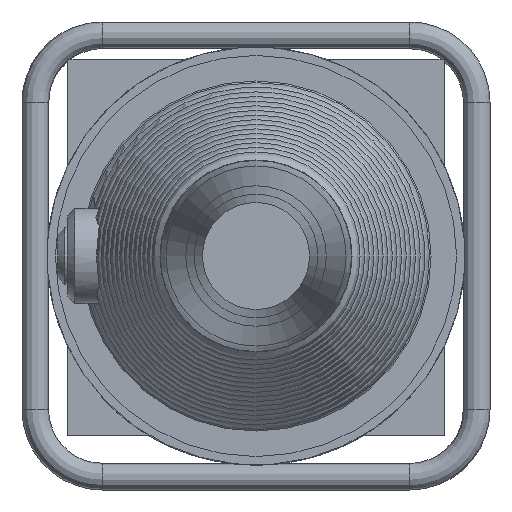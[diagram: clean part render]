
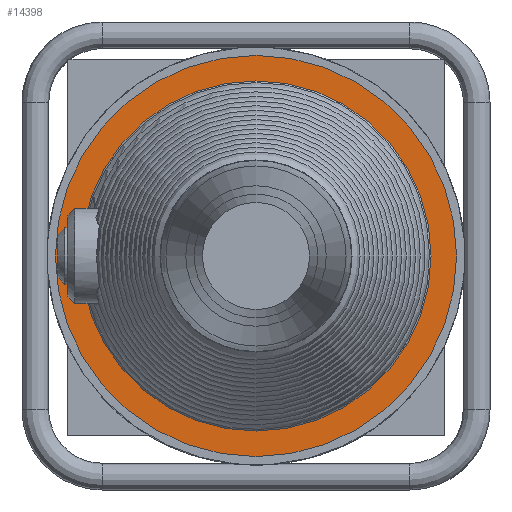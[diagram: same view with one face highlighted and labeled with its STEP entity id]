
A CAD part, left-side view. The second image highlights one B-rep face of the part: STEP entity #14398.
In plain terms, the highlighted planar face has unit normal (-1, 0, 0).
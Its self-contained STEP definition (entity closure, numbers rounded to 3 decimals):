
#182=FACE_BOUND('',#3364,.T.);
#1742=PLANE('',#15102);
#2453=FACE_OUTER_BOUND('',#3363,.T.);
#3363=EDGE_LOOP('',(#12998));
#3364=EDGE_LOOP('',(#12999));
#3876=CIRCLE('',#15103,120.);
#3877=CIRCLE('',#15104,104.728);
#7011=VERTEX_POINT('',#34381);
#7012=VERTEX_POINT('',#34383);
#9046=EDGE_CURVE('',#7011,#7011,#3876,.T.);
#9047=EDGE_CURVE('',#7012,#7012,#3877,.T.);
#12998=ORIENTED_EDGE('',*,*,#9046,.F.);
#12999=ORIENTED_EDGE('',*,*,#9047,.T.);
#14398=ADVANCED_FACE('',(#2453,#182),#1742,.T.);
#15102=AXIS2_PLACEMENT_3D('',#34380,#17327,#17328);
#15103=AXIS2_PLACEMENT_3D('',#34382,#17329,#17330);
#15104=AXIS2_PLACEMENT_3D('',#34384,#17331,#17332);
#17327=DIRECTION('center_axis',(-1.,0.,0.));
#17328=DIRECTION('ref_axis',(0.,1.,0.));
#17329=DIRECTION('center_axis',(1.,0.,0.));
#17330=DIRECTION('ref_axis',(0.,0.,
1.));
#17331=DIRECTION('center_axis',(1.,0.,0.));
#17332=DIRECTION('ref_axis',(0.,0.,
1.));
#34380=CARTESIAN_POINT('Origin',(-197.651,0.,
112.364));
#34381=CARTESIAN_POINT('',(-197.651,0.,120.));
#34382=CARTESIAN_POINT('Origin',(-197.651,0.,
0.));
#34383=CARTESIAN_POINT('',(-197.651,0.,104.728));
#34384=CARTESIAN_POINT('Origin',(-197.651,0.,
0.));
